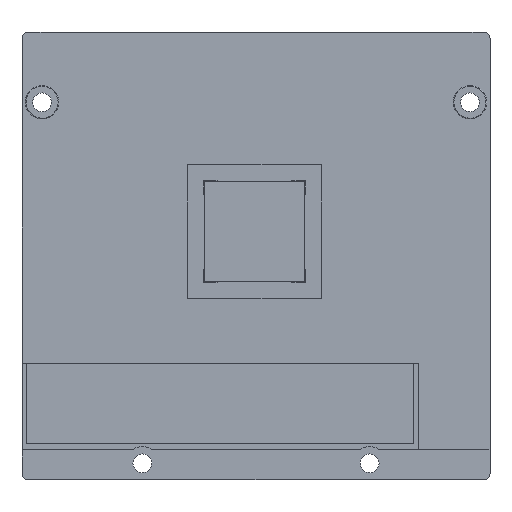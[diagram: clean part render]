
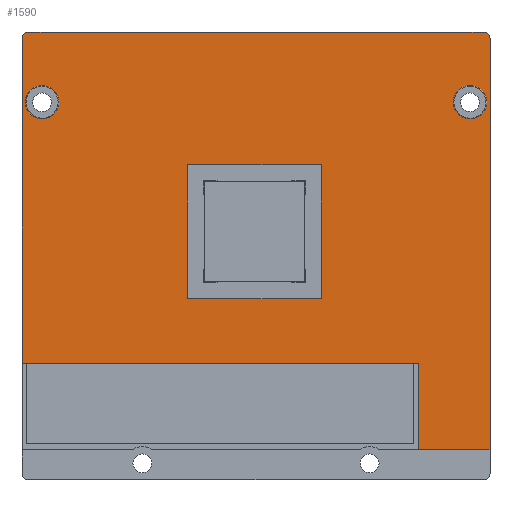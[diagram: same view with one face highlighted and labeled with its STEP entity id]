
A CAD part, front view. The second image highlights one B-rep face of the part: STEP entity #1590.
In plain terms, the highlighted planar face has unit normal (0, -1, 0).
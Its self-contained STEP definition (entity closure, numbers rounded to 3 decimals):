
#15=DIRECTION('',(0.,0.,-1.));
#16=VECTOR('',#15,48.535);
#17=CARTESIAN_POINT('',(-35.,6.5,29.75));
#18=LINE('',#17,#16);
#168=DIRECTION('',(1.,0.,0.));
#169=VECTOR('',#168,59.26);
#170=CARTESIAN_POINT('',(-35.,6.5,-18.785));
#171=LINE('',#170,#169);
#176=CARTESIAN_POINT('',(-34.,6.5,29.75));
#177=DIRECTION('',(0.,1.,0.));
#178=DIRECTION('',(-1.,0.,0.));
#179=AXIS2_PLACEMENT_3D('',#176,#177,#178);
#181=DIRECTION('',(1.,0.,0.));
#182=VECTOR('',#181,64.);
#183=CARTESIAN_POINT('',(-32.,6.5,30.75));
#184=LINE('',#183,#182);
#185=CARTESIAN_POINT('',(34.,6.5,29.75));
#186=DIRECTION('',(0.,1.,0.));
#187=DIRECTION('',(0.,0.,1.));
#188=AXIS2_PLACEMENT_3D('',#185,#186,#187);
#190=DIRECTION('',(0.,0.,-1.));
#191=VECTOR('',#190,61.5);
#192=CARTESIAN_POINT('',(35.,6.5,29.75));
#193=LINE('',#192,#191);
#194=CARTESIAN_POINT('',(-32.,6.5,20.25));
#195=DIRECTION('',(0.,-1.,0.));
#196=DIRECTION('',(0.,0.,-1.));
#197=AXIS2_PLACEMENT_3D('',#194,#195,#196);
#199=CARTESIAN_POINT('',(-32.,6.5,20.25));
#200=DIRECTION('',(0.,-1.,0.));
#201=DIRECTION('',(0.,0.,1.));
#202=AXIS2_PLACEMENT_3D('',#199,#200,#201);
#204=CARTESIAN_POINT('',(32.,6.5,20.25));
#205=DIRECTION('',(0.,-1.,0.));
#206=DIRECTION('',(0.,0.,-1.));
#207=AXIS2_PLACEMENT_3D('',#204,#205,#206);
#209=CARTESIAN_POINT('',(32.,6.5,20.25));
#210=DIRECTION('',(0.,-1.,0.));
#211=DIRECTION('',(0.,0.,1.));
#212=AXIS2_PLACEMENT_3D('',#209,#210,#211);
#420=DIRECTION('',(1.,0.,0.));
#421=VECTOR('',#420,10.74);
#422=CARTESIAN_POINT('',(24.26,6.5,-31.75));
#423=LINE('',#422,#421);
#452=DIRECTION('',(0.,0.,-1.));
#453=VECTOR('',#452,12.965);
#454=CARTESIAN_POINT('',(24.26,6.5,-18.785));
#455=LINE('',#454,#453);
#491=DIRECTION('',(-1.,0.,0.));
#492=VECTOR('',#491,2.);
#493=CARTESIAN_POINT('',(34.,6.5,30.75));
#494=LINE('',#493,#492);
#495=DIRECTION('',(-1.,0.,0.));
#496=VECTOR('',#495,2.);
#497=CARTESIAN_POINT('',(-32.,6.5,30.75));
#498=LINE('',#497,#496);
#723=DIRECTION('',(0.,0.,1.));
#724=VECTOR('',#723,20.);
#725=CARTESIAN_POINT('',(-10.23,6.5,-9.11));
#726=LINE('',#725,#724);
#731=DIRECTION('',(1.,0.,0.));
#732=VECTOR('',#731,20.);
#733=CARTESIAN_POINT('',(-10.23,6.5,10.89));
#734=LINE('',#733,#732);
#739=DIRECTION('',(0.,0.,-1.));
#740=VECTOR('',#739,20.);
#741=CARTESIAN_POINT('',(9.77,6.5,10.89));
#742=LINE('',#741,#740);
#747=DIRECTION('',(-1.,0.,0.));
#748=VECTOR('',#747,20.);
#749=CARTESIAN_POINT('',(9.77,6.5,-9.11));
#750=LINE('',#749,#748);
#1063=CARTESIAN_POINT('',(-35.,6.5,29.75));
#1064=VERTEX_POINT('',#1063);
#1065=CARTESIAN_POINT('',(-35.,6.5,-18.785));
#1066=VERTEX_POINT('',#1065);
#1151=CARTESIAN_POINT('',(24.26,6.5,-18.785));
#1152=VERTEX_POINT('',#1151);
#1153=CARTESIAN_POINT('',(-34.,6.5,30.75));
#1154=VERTEX_POINT('',#1153);
#1155=CARTESIAN_POINT('',(-32.,6.5,30.75));
#1156=VERTEX_POINT('',#1155);
#1157=CARTESIAN_POINT('',(32.,6.5,30.75));
#1158=VERTEX_POINT('',#1157);
#1159=CARTESIAN_POINT('',(34.,6.5,30.75));
#1160=VERTEX_POINT('',#1159);
#1161=CARTESIAN_POINT('',(35.,6.5,29.75));
#1162=VERTEX_POINT('',#1161);
#1163=CARTESIAN_POINT('',(35.,6.5,-31.75));
#1164=VERTEX_POINT('',#1163);
#1165=CARTESIAN_POINT('',(24.26,6.5,-31.75));
#1166=VERTEX_POINT('',#1165);
#1167=CARTESIAN_POINT('',(-32.,6.5,17.75));
#1168=CARTESIAN_POINT('',(-32.,6.5,22.75));
#1169=VERTEX_POINT('',#1167);
#1170=VERTEX_POINT('',#1168);
#1171=CARTESIAN_POINT('',(32.,6.5,17.75));
#1172=CARTESIAN_POINT('',(32.,6.5,22.75));
#1173=VERTEX_POINT('',#1171);
#1174=VERTEX_POINT('',#1172);
#1175=CARTESIAN_POINT('',(-10.23,6.5,-9.11));
#1176=CARTESIAN_POINT('',(-10.23,6.5,10.89));
#1177=VERTEX_POINT('',#1175);
#1178=VERTEX_POINT('',#1176);
#1179=CARTESIAN_POINT('',(9.77,6.5,-9.11));
#1180=VERTEX_POINT('',#1179);
#1181=CARTESIAN_POINT('',(9.77,6.5,10.89));
#1182=VERTEX_POINT('',#1181);
#1543=CARTESIAN_POINT('',(0.,6.5,0.));
#1544=DIRECTION('',(0.,-1.,0.));
#1545=DIRECTION('',(0.,0.,1.));
#1546=AXIS2_PLACEMENT_3D('',#1543,#1544,#1545);
#1547=PLANE('',#1546);
#1549=ORIENTED_EDGE('',*,*,#1548,.T.);
#1551=ORIENTED_EDGE('',*,*,#1550,.F.);
#1553=ORIENTED_EDGE('',*,*,#1552,.T.);
#1555=ORIENTED_EDGE('',*,*,#1554,.F.);
#1557=ORIENTED_EDGE('',*,*,#1556,.T.);
#1559=ORIENTED_EDGE('',*,*,#1558,.T.);
#1561=ORIENTED_EDGE('',*,*,#1560,.F.);
#1563=ORIENTED_EDGE('',*,*,#1562,.F.);
#1564=ORIENTED_EDGE('',*,*,#1534,.F.);
#1565=ORIENTED_EDGE('',*,*,#1388,.F.);
#1566=EDGE_LOOP('',(#1549,#1551,#1553,#1555,#1557,#1559,#1561,#1563,#1564,
#1565));
#1567=FACE_OUTER_BOUND('',#1566,.F.);
#1569=ORIENTED_EDGE('',*,*,#1568,.T.);
#1571=ORIENTED_EDGE('',*,*,#1570,.T.);
#1572=EDGE_LOOP('',(#1569,#1571));
#1573=FACE_BOUND('',#1572,.F.);
#1575=ORIENTED_EDGE('',*,*,#1574,.T.);
#1577=ORIENTED_EDGE('',*,*,#1576,.T.);
#1578=EDGE_LOOP('',(#1575,#1577));
#1579=FACE_BOUND('',#1578,.F.);
#1581=ORIENTED_EDGE('',*,*,#1580,.F.);
#1583=ORIENTED_EDGE('',*,*,#1582,.F.);
#1585=ORIENTED_EDGE('',*,*,#1584,.F.);
#1587=ORIENTED_EDGE('',*,*,#1586,.F.);
#1588=EDGE_LOOP('',(#1581,#1583,#1585,#1587));
#1589=FACE_BOUND('',#1588,.F.);
#1590=ADVANCED_FACE('',(#1567,#1573,#1579,#1589),#1547,.T.);
#180=CIRCLE('',#179,1.);
#189=CIRCLE('',#188,1.);
#198=CIRCLE('',#197,2.5);
#203=CIRCLE('',#202,2.5);
#208=CIRCLE('',#207,2.5);
#213=CIRCLE('',#212,2.5);
#1388=EDGE_CURVE('',#1064,#1066,#18,.T.);
#1534=EDGE_CURVE('',#1066,#1152,#171,.T.);
#1548=EDGE_CURVE('',#1064,#1154,#180,.T.);
#1550=EDGE_CURVE('',#1156,#1154,#498,.T.);
#1552=EDGE_CURVE('',#1156,#1158,#184,.T.);
#1554=EDGE_CURVE('',#1160,#1158,#494,.T.);
#1556=EDGE_CURVE('',#1160,#1162,#189,.T.);
#1558=EDGE_CURVE('',#1162,#1164,#193,.T.);
#1560=EDGE_CURVE('',#1166,#1164,#423,.T.);
#1562=EDGE_CURVE('',#1152,#1166,#455,.T.);
#1568=EDGE_CURVE('',#1169,#1170,#198,.T.);
#1570=EDGE_CURVE('',#1170,#1169,#203,.T.);
#1574=EDGE_CURVE('',#1173,#1174,#208,.T.);
#1576=EDGE_CURVE('',#1174,#1173,#213,.T.);
#1580=EDGE_CURVE('',#1177,#1178,#726,.T.);
#1582=EDGE_CURVE('',#1180,#1177,#750,.T.);
#1584=EDGE_CURVE('',#1182,#1180,#742,.T.);
#1586=EDGE_CURVE('',#1178,#1182,#734,.T.);
